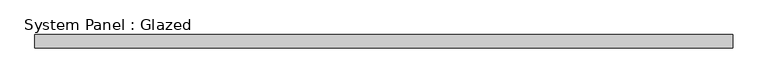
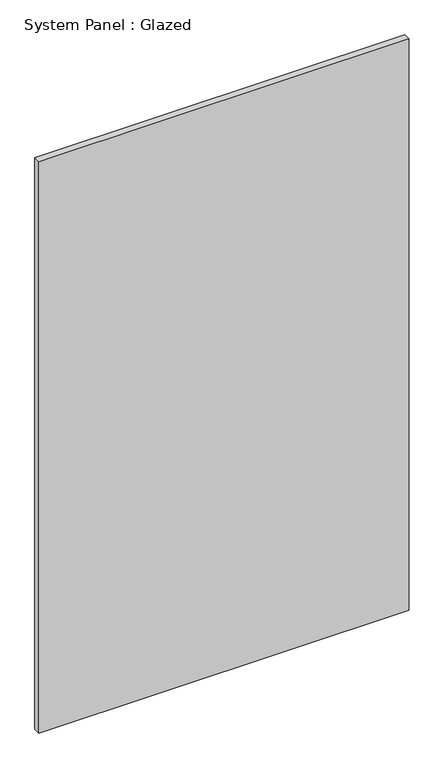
"""IFC4 building model written with IfcOpenShell, lengths in millimetres: plate geometry, System Panel : Glazed."""

from ifc_helpers import new_model, si_unit, origin, origin_with_axes, place, context, project, spatial, polyline, outline, extrude, source, transform, mapped, element, save


def system_panel_glazed_7433b743(model_context):
    return source(origin(), model_context, "Body", "SweptSolid", [
        extrude(outline(polyline([(663.7045455, 19.05), (-663.7045455, 19.05), (-663.7045455, 44.45), (663.7045455, 44.45), (663.7045455, 19.05)])), origin_with_axes(), (0.0, 0.0, 1.0), 2166.35),
    ])


if __name__ == "__main__":
    model = new_model("IFC4")
    model_context = context("Model", 3, world=origin())
    ifc_project = project(units=[si_unit("LENGTHUNIT", "METRE", prefix="MILLI")], contexts=[model_context])
    site = spatial("IfcSite", under=ifc_project)
    building = spatial("IfcBuilding", under=site)
    placement = place(None, origin())
    system_panel_glazed_shape = system_panel_glazed_7433b743(model_context)
    element("IfcPlate", 1, ObjectType="System Panel : Glazed", at=placement, inside=building, context=model_context, shape_type="MappedRepresentation", body=[
        mapped(system_panel_glazed_shape, transform((0.0, 0.0, 0.0), x_axis=(1.0, 0.0, 0.0), y_axis=(0.0, 1.0, 0.0), z_axis=(0.0, 0.0, 1.0))),
    ])
    save(model, "model.ifc")
